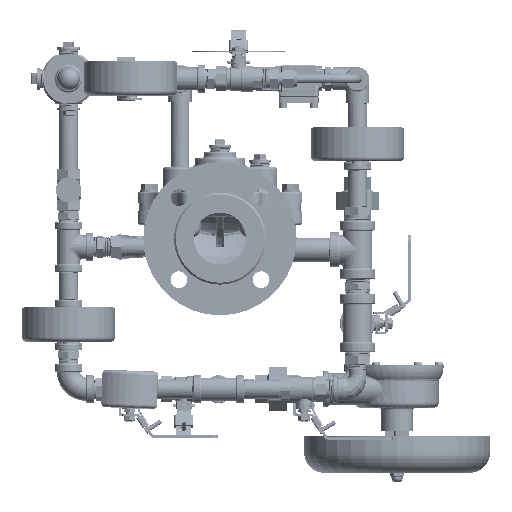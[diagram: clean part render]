
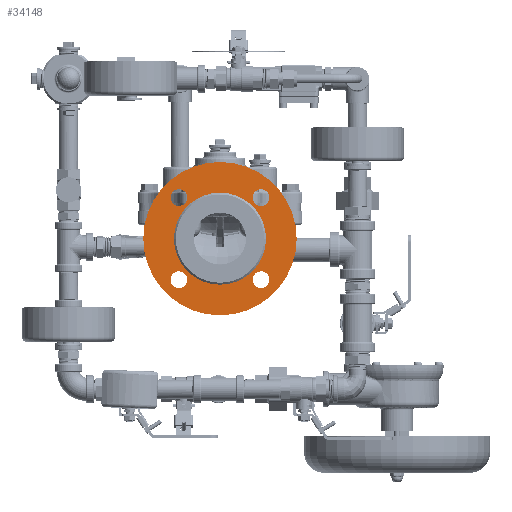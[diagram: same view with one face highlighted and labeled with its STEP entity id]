
A CAD part, front view. The second image highlights one B-rep face of the part: STEP entity #34148.
In plain terms, the highlighted planar face has unit normal (0, -1, 0).
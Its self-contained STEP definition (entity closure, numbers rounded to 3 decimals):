
#8034=CARTESIAN_POINT('',(0.,-133.,0.));
#8035=DIRECTION('',(0.,1.,0.));
#8036=DIRECTION('',(0.,0.,1.));
#8037=AXIS2_PLACEMENT_3D('',#8034,#8035,#8036);
#8039=CARTESIAN_POINT('',(0.,-133.,0.));
#8040=DIRECTION('',(0.,1.,0.));
#8041=DIRECTION('',(0.,0.,-1.));
#8042=AXIS2_PLACEMENT_3D('',#8039,#8040,#8041);
#8044=CARTESIAN_POINT('',(-44.194,-133.,44.194));
#8045=DIRECTION('',(0.,1.,0.));
#8046=DIRECTION('',(-1.,0.,0.));
#8047=AXIS2_PLACEMENT_3D('',#8044,#8045,#8046);
#8049=CARTESIAN_POINT('',(-44.194,-133.,44.194));
#8050=DIRECTION('',(0.,1.,0.));
#8051=DIRECTION('',(1.,0.,0.));
#8052=AXIS2_PLACEMENT_3D('',#8049,#8050,#8051);
#8054=CARTESIAN_POINT('',(44.194,-133.,44.194));
#8055=DIRECTION('',(0.,1.,0.));
#8056=DIRECTION('',(0.,0.,1.));
#8057=AXIS2_PLACEMENT_3D('',#8054,#8055,#8056);
#8059=CARTESIAN_POINT('',(44.194,-133.,44.194));
#8060=DIRECTION('',(0.,1.,0.));
#8061=DIRECTION('',(0.,0.,-1.));
#8062=AXIS2_PLACEMENT_3D('',#8059,#8060,#8061);
#8064=CARTESIAN_POINT('',(44.194,-133.,-44.194));
#8065=DIRECTION('',(0.,1.,0.));
#8066=DIRECTION('',(1.,0.,0.));
#8067=AXIS2_PLACEMENT_3D('',#8064,#8065,#8066);
#8069=CARTESIAN_POINT('',(44.194,-133.,-44.194));
#8070=DIRECTION('',(0.,1.,0.));
#8071=DIRECTION('',(-1.,0.,0.));
#8072=AXIS2_PLACEMENT_3D('',#8069,#8070,#8071);
#8074=CARTESIAN_POINT('',(-44.194,-133.,-44.194));
#8075=DIRECTION('',(0.,1.,0.));
#8076=DIRECTION('',(0.,0.,-1.));
#8077=AXIS2_PLACEMENT_3D('',#8074,#8075,#8076);
#8079=CARTESIAN_POINT('',(-44.194,-133.,-44.194));
#8080=DIRECTION('',(0.,1.,0.));
#8081=DIRECTION('',(0.,0.,1.));
#8082=AXIS2_PLACEMENT_3D('',#8079,#8080,#8081);
#8093=CARTESIAN_POINT('',(0.,-133.,0.));
#8094=DIRECTION('',(0.,-1.,0.));
#8095=DIRECTION('',(0.,0.,-1.));
#8096=AXIS2_PLACEMENT_3D('',#8093,#8094,#8095);
#8217=CARTESIAN_POINT('',(0.,-133.,0.));
#8218=DIRECTION('',(0.,1.,0.));
#8219=DIRECTION('',(0.,0.,-1.));
#8220=AXIS2_PLACEMENT_3D('',#8217,#8218,#8219);
#15233=CARTESIAN_POINT('',(0.,-133.,-82.5));
#15234=CARTESIAN_POINT('',(0.,-133.,82.5));
#15235=VERTEX_POINT('',#15233);
#15236=VERTEX_POINT('',#15234);
#15319=CARTESIAN_POINT('',(-53.194,-133.,44.194));
#15321=VERTEX_POINT('',#15319);
#15323=CARTESIAN_POINT('',(-35.194,-133.,44.194));
#15325=VERTEX_POINT('',#15323);
#15327=CARTESIAN_POINT('',(44.194,-133.,53.194));
#15329=VERTEX_POINT('',#15327);
#15331=CARTESIAN_POINT('',(44.194,-133.,35.194));
#15333=VERTEX_POINT('',#15331);
#15335=CARTESIAN_POINT('',(53.194,-133.,-44.194));
#15337=VERTEX_POINT('',#15335);
#15339=CARTESIAN_POINT('',(35.194,-133.,-44.194));
#15341=VERTEX_POINT('',#15339);
#15343=CARTESIAN_POINT('',(-44.194,-133.,-53.194));
#15345=VERTEX_POINT('',#15343);
#15347=CARTESIAN_POINT('',(-44.194,-133.,-35.194));
#15349=VERTEX_POINT('',#15347);
#15880=CARTESIAN_POINT('',(0.,-133.,49.5));
#15881=CARTESIAN_POINT('',(0.,-133.,-49.5));
#15882=VERTEX_POINT('',#15880);
#15883=VERTEX_POINT('',#15881);
#34108=CARTESIAN_POINT('',(0.,-133.,0.));
#34109=DIRECTION('',(0.,1.,0.));
#34110=DIRECTION('',(0.,0.,-1.));
#34111=AXIS2_PLACEMENT_3D('',#34108,#34109,#34110);
#34112=PLANE('',#34111);
#34114=ORIENTED_EDGE('',*,*,#34113,.F.);
#34116=ORIENTED_EDGE('',*,*,#34115,.T.);
#34117=EDGE_LOOP('',(#34114,#34116));
#34118=FACE_OUTER_BOUND('',#34117,.F.);
#34119=ORIENTED_EDGE('',*,*,#34098,.F.);
#34121=ORIENTED_EDGE('',*,*,#34120,.F.);
#34122=EDGE_LOOP('',(#34119,#34121));
#34123=FACE_BOUND('',#34122,.F.);
#34125=ORIENTED_EDGE('',*,*,#34124,.F.);
#34127=ORIENTED_EDGE('',*,*,#34126,.F.);
#34128=EDGE_LOOP('',(#34125,#34127));
#34129=FACE_BOUND('',#34128,.F.);
#34131=ORIENTED_EDGE('',*,*,#34130,.F.);
#34133=ORIENTED_EDGE('',*,*,#34132,.F.);
#34134=EDGE_LOOP('',(#34131,#34133));
#34135=FACE_BOUND('',#34134,.F.);
#34137=ORIENTED_EDGE('',*,*,#34136,.F.);
#34139=ORIENTED_EDGE('',*,*,#34138,.F.);
#34140=EDGE_LOOP('',(#34137,#34139));
#34141=FACE_BOUND('',#34140,.F.);
#34143=ORIENTED_EDGE('',*,*,#34142,.F.);
#34145=ORIENTED_EDGE('',*,*,#34144,.F.);
#34146=EDGE_LOOP('',(#34143,#34145));
#34147=FACE_BOUND('',#34146,.F.);
#34148=ADVANCED_FACE('',(#34118,#34123,#34129,#34135,#34141,#34147),#34112,.F.);
#8038=CIRCLE('',#8037,49.5);
#8043=CIRCLE('',#8042,49.5);
#8048=CIRCLE('',#8047,9.);
#8053=CIRCLE('',#8052,9.);
#8058=CIRCLE('',#8057,9.);
#8063=CIRCLE('',#8062,9.);
#8068=CIRCLE('',#8067,9.);
#8073=CIRCLE('',#8072,9.);
#8078=CIRCLE('',#8077,9.);
#8083=CIRCLE('',#8082,9.);
#8097=CIRCLE('',#8096,82.5);
#8221=CIRCLE('',#8220,82.5);
#34098=EDGE_CURVE('',#15882,#15883,#8038,.T.);
#34113=EDGE_CURVE('',#15235,#15236,#8097,.T.);
#34115=EDGE_CURVE('',#15235,#15236,#8221,.T.);
#34120=EDGE_CURVE('',#15883,#15882,#8043,.T.);
#34124=EDGE_CURVE('',#15321,#15325,#8048,.T.);
#34126=EDGE_CURVE('',#15325,#15321,#8053,.T.);
#34130=EDGE_CURVE('',#15329,#15333,#8058,.T.);
#34132=EDGE_CURVE('',#15333,#15329,#8063,.T.);
#34136=EDGE_CURVE('',#15337,#15341,#8068,.T.);
#34138=EDGE_CURVE('',#15341,#15337,#8073,.T.);
#34142=EDGE_CURVE('',#15345,#15349,#8078,.T.);
#34144=EDGE_CURVE('',#15349,#15345,#8083,.T.);
